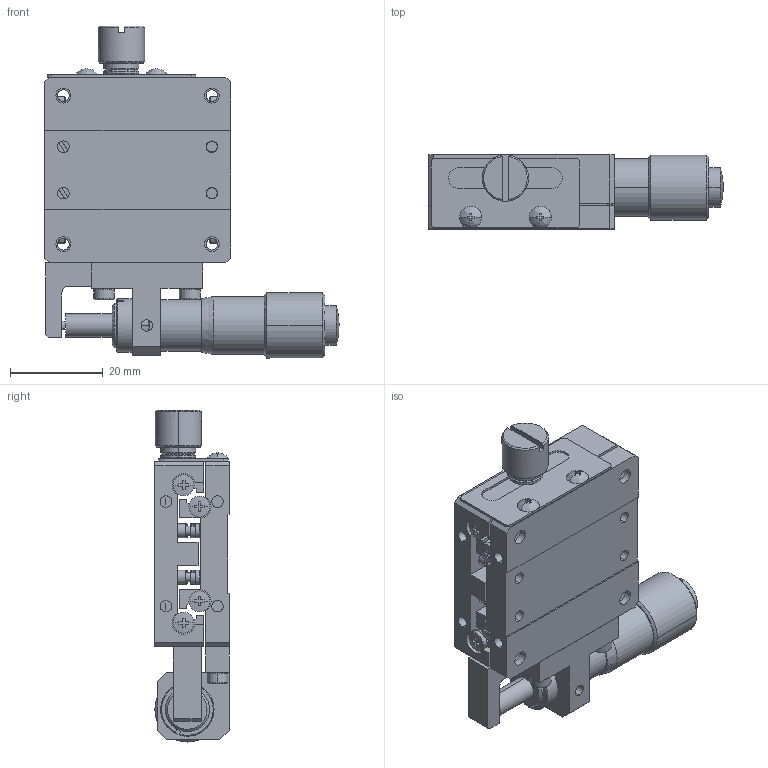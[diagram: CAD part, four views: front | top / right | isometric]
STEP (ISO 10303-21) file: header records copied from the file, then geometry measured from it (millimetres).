
FILE_DESCRIPTION (( 'STEP AP214' ), '1' );
FILE_NAME ('PHS-441SR.STEP', '2018-07-03T02:14:52', ( 'China' ), ( 'Microsoft' ), 'SwSTEP 2.0', 'SolidWorks 2015', '' );
FILE_SCHEMA (( 'AUTOMOTIVE_DESIGN' ));
Length unit declared in the file: millimetre
Products named in the file (1): PHS-441SR
Bounding box: 63.41 x 16 x 71.5 mm (x, y, z)
Volume: 28442.4 mm3; surface area: 21015 mm2
Topology: 27 solids, 27 shells, 887 faces, 2233 edges, 1459 vertices
Faces by surface type: plane 421, cylinder 331, cone 112, bspline 22, sphere 1
Entity records: 30025 total; most frequent: CARTESIAN_POINT 6479, DIRECTION 4562, ORIENTED_EDGE 4460, EDGE_CURVE 2230, AXIS2_PLACEMENT_3D 1720, VERTEX_POINT 1459, LINE 1122, VECTOR 1122
